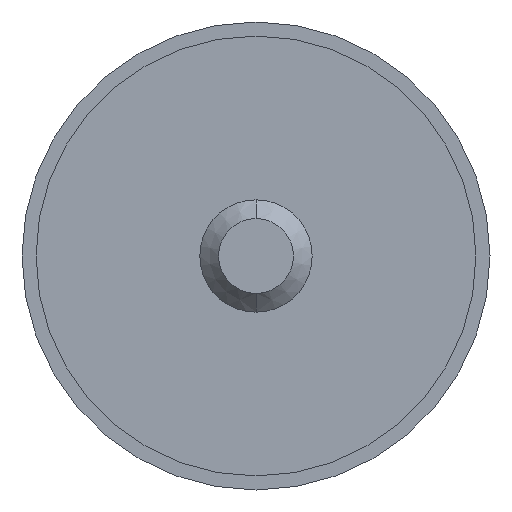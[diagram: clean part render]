
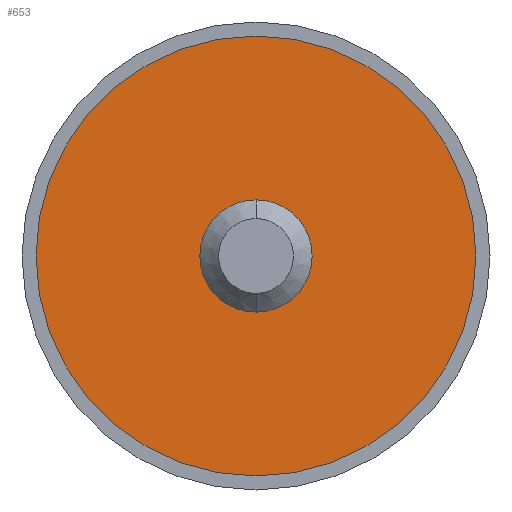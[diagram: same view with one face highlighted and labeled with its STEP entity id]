
A CAD part, front view. The second image highlights one B-rep face of the part: STEP entity #653.
In plain terms, the highlighted planar face has unit normal (0, -1, 0).
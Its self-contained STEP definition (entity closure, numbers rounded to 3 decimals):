
#23 = CARTESIAN_POINT ( 'NONE',  ( 0., -0.5, 0. ) ) ;
#39 = DIRECTION ( 'NONE',  ( 0., 0., 1. ) ) ;
#81 = ORIENTED_EDGE ( 'NONE', *, *, #887, .F. ) ;
#202 = CARTESIAN_POINT ( 'NONE',  ( 0., -0.5, 0. ) ) ;
#292 = CARTESIAN_POINT ( 'NONE',  ( 0., -0.5, 0. ) ) ;
#312 = EDGE_CURVE ( 'NONE', #3651, #776, #3936, .T. ) ;
#653 = ADVANCED_FACE ( 'NONE', ( #2399, #1431 ), #3493, .F. ) ;
#668 = DIRECTION ( 'NONE',  ( 0., 0., 1. ) ) ;
#776 = VERTEX_POINT ( 'NONE', #3911 ) ;
#846 = VERTEX_POINT ( 'NONE', #2517 ) ;
#887 = EDGE_CURVE ( 'NONE', #846, #2967, #3773, .T. ) ;
#907 = EDGE_CURVE ( 'NONE', #776, #3651, #4253, .T. ) ;
#1015 = CARTESIAN_POINT ( 'NONE',  ( 0., -0.5, 0. ) ) ;
#1323 = DIRECTION ( 'NONE',  ( 0., -1., 0. ) ) ;
#1431 = FACE_OUTER_BOUND ( 'NONE', #1446, .T. ) ;
#1446 = EDGE_LOOP ( 'NONE', ( #81, #2126 ) ) ;
#1465 = EDGE_CURVE ( 'NONE', #2967, #846, #1998, .T. ) ;
#1529 = DIRECTION ( 'NONE',  ( 0., 1., 0. ) ) ;
#1824 = ORIENTED_EDGE ( 'NONE', *, *, #907, .F. ) ;
#1998 = CIRCLE ( 'NONE', #2956, 11.75 ) ;
#2126 = ORIENTED_EDGE ( 'NONE', *, *, #1465, .F. ) ;
#2318 = EDGE_LOOP ( 'NONE', ( #2618, #1824 ) ) ;
#2399 = FACE_BOUND ( 'NONE', #2318, .T. ) ;
#2517 = CARTESIAN_POINT ( 'NONE',  ( 0., -0.5, 11.75 ) ) ;
#2613 = DIRECTION ( 'NONE',  ( 0., 1., 0. ) ) ;
#2618 = ORIENTED_EDGE ( 'NONE', *, *, #312, .F. ) ;
#2659 = AXIS2_PLACEMENT_3D ( 'NONE', #292, #2613, #668 ) ;
#2956 = AXIS2_PLACEMENT_3D ( 'NONE', #4025, #3018, #39 ) ;
#2967 = VERTEX_POINT ( 'NONE', #3074 ) ;
#2972 = DIRECTION ( 'NONE',  ( 0., 0., -1. ) ) ;
#2975 = DIRECTION ( 'NONE',  ( 0., -1., 0. ) ) ;
#3018 = DIRECTION ( 'NONE',  ( 0., 1., 0. ) ) ;
#3074 = CARTESIAN_POINT ( 'NONE',  ( 0., -0.5, -11.75 ) ) ;
#3368 = DIRECTION ( 'NONE',  ( 0., 0., -1. ) ) ;
#3490 = AXIS2_PLACEMENT_3D ( 'NONE', #1015, #1323, #2972 ) ;
#3493 = PLANE ( 'NONE',  #3575 ) ;
#3522 = DIRECTION ( 'NONE',  ( 0., 0., 1. ) ) ;
#3575 = AXIS2_PLACEMENT_3D ( 'NONE', #202, #1529, #3522 ) ;
#3651 = VERTEX_POINT ( 'NONE', #4099 ) ;
#3710 = AXIS2_PLACEMENT_3D ( 'NONE', #23, #2975, #3368 ) ;
#3773 = CIRCLE ( 'NONE', #2659, 11.75 ) ;
#3911 = CARTESIAN_POINT ( 'NONE',  ( 0., -0.5, -3. ) ) ;
#3936 = CIRCLE ( 'NONE', #3710, 3. ) ;
#4025 = CARTESIAN_POINT ( 'NONE',  ( 0., -0.5, 0. ) ) ;
#4099 = CARTESIAN_POINT ( 'NONE',  ( 0., -0.5, 3. ) ) ;
#4253 = CIRCLE ( 'NONE', #3490, 3. ) ;
